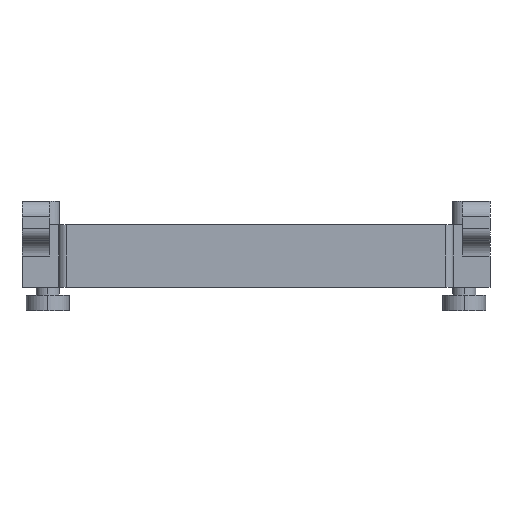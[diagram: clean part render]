
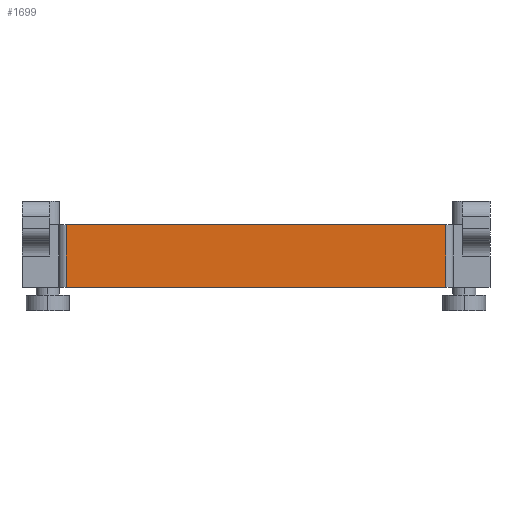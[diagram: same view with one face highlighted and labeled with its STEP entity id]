
A CAD part, left-side view. The second image highlights one B-rep face of the part: STEP entity #1699.
In plain terms, the highlighted planar face has unit normal (-1, 0, 0).
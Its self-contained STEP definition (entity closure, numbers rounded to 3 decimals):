
#101 = LINE ( 'NONE', #1986, #1237 ) ;
#221 = CARTESIAN_POINT ( 'NONE',  ( -23.8, -24.3, 0. ) ) ;
#369 = CARTESIAN_POINT ( 'NONE',  ( -23.8, 24.3, 0. ) ) ;
#422 = CARTESIAN_POINT ( 'NONE',  ( -23.8, -24.3, 8. ) ) ;
#575 = EDGE_CURVE ( 'NONE', #736, #968, #1358, .T. ) ;
#736 = VERTEX_POINT ( 'NONE', #369 ) ;
#813 = ORIENTED_EDGE ( 'NONE', *, *, #575, .T. ) ;
#853 = EDGE_LOOP ( 'NONE', ( #813, #910, #2291, #2117 ) ) ;
#875 = DIRECTION ( 'NONE',  ( 0., 0., 1. ) ) ;
#877 = EDGE_CURVE ( 'NONE', #2856, #736, #101, .T. ) ;
#910 = ORIENTED_EDGE ( 'NONE', *, *, #2208, .T. ) ;
#968 = VERTEX_POINT ( 'NONE', #221 ) ;
#972 = CARTESIAN_POINT ( 'NONE',  ( -23.8, 24.3, 8. ) ) ;
#981 = CARTESIAN_POINT ( 'NONE',  ( -23.8, -25.3, 8. ) ) ;
#1052 = DIRECTION ( 'NONE',  ( 0., 0., -1. ) ) ;
#1155 = LINE ( 'NONE', #981, #2892 ) ;
#1208 = DIRECTION ( 'NONE',  ( 0., -1., 0. ) ) ;
#1237 = VECTOR ( 'NONE', #1052, 1000. ) ;
#1270 = FACE_OUTER_BOUND ( 'NONE', #853, .T. ) ;
#1358 = LINE ( 'NONE', #2088, #2530 ) ;
#1604 = DIRECTION ( 'NONE',  ( 0., -1., 0. ) ) ;
#1699 = ADVANCED_FACE ( 'NONE', ( #1270 ), #3035, .F. ) ;
#1986 = CARTESIAN_POINT ( 'NONE',  ( -23.8, 24.3, 8. ) ) ;
#2088 = CARTESIAN_POINT ( 'NONE',  ( -23.8, -25.3, 0. ) ) ;
#2117 = ORIENTED_EDGE ( 'NONE', *, *, #877, .T. ) ;
#2203 = VECTOR ( 'NONE', #875, 1000. ) ;
#2208 = EDGE_CURVE ( 'NONE', #968, #2212, #2739, .T. ) ;
#2212 = VERTEX_POINT ( 'NONE', #422 ) ;
#2283 = DIRECTION ( 'NONE',  ( 1., 0., 0. ) ) ;
#2290 = CARTESIAN_POINT ( 'NONE',  ( -23.8, -24.3, 8. ) ) ;
#2291 = ORIENTED_EDGE ( 'NONE', *, *, #2881, .F. ) ;
#2530 = VECTOR ( 'NONE', #1604, 1000. ) ;
#2543 = CARTESIAN_POINT ( 'NONE',  ( -23.8, -25.3, 8. ) ) ;
#2575 = DIRECTION ( 'NONE',  ( 0., 0., -1. ) ) ;
#2739 = LINE ( 'NONE', #2290, #2203 ) ;
#2856 = VERTEX_POINT ( 'NONE', #972 ) ;
#2866 = AXIS2_PLACEMENT_3D ( 'NONE', #2543, #2283, #2575 ) ;
#2881 = EDGE_CURVE ( 'NONE', #2856, #2212, #1155, .T. ) ;
#2892 = VECTOR ( 'NONE', #1208, 1000. ) ;
#3035 = PLANE ( 'NONE',  #2866 ) ;
